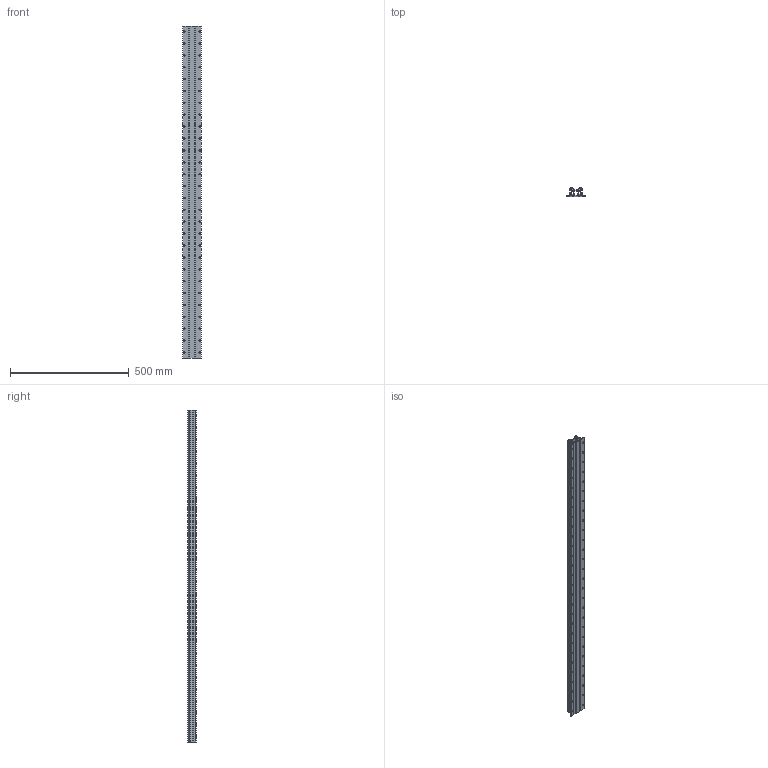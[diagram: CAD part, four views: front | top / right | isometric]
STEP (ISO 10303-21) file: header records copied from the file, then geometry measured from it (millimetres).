
FILE_DESCRIPTION (( 'STEP AP203' ), '1' );
FILE_NAME ('LFS-8-7_-_L=1396.step', '2006-12-18T13:27:12', ( ' ' ), ( ' ' ), 'SwSTEP 2.0', 'SolidWorks 2006089', '' );
FILE_SCHEMA (( 'CONFIG_CONTROL_DESIGN' ));
Length unit declared in the file: millimetre
Products named in the file (1): LFS-8-7_-_L=1396
Bounding box: 78 x 36 x 1396 mm (x, y, z)
Volume: 1207829.4 mm3; surface area: 776817.5 mm2
Topology: 3 solids, 3 shells, 399 faces, 1235 edges, 786 vertices
Faces by surface type: plane 231, cylinder 168
Entity records: 13958 total; most frequent: CARTESIAN_POINT 3093, ORIENTED_EDGE 2470, DIRECTION 2147, EDGE_CURVE 1235, VERTEX_POINT 786, AXIS2_PLACEMENT_3D 736, VECTOR 675, LINE 675
